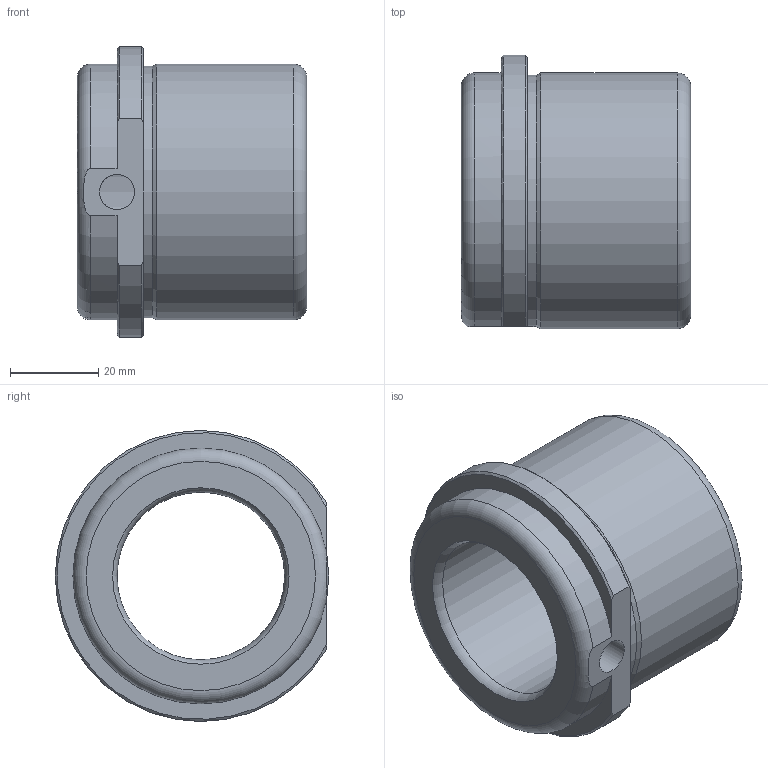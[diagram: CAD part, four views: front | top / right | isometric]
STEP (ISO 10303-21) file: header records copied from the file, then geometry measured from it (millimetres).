
FILE_DESCRIPTION(/* description */ ('Impex Ready, www.impex-ready.pl'),/* implementation_level */ '2;1');
FILE_NAME(/* name */ 'C:\Users\VIKKY\Nextcloud\SM\projekt 10 - części na stronę internetową\Pliki_3D_new\273 Tuleje BEBA\273_BEBA_STEP\BEBA38-5.ipt.step',/* time_stamp */ '2022-01-19T05:45:16+01:00',/* author */ ('SM'),/* organization */ (''),/* preprocessor_version */ 'ST-DEVELOPER v18.1',/* originating_system */ 'Autodesk Inventor 2021',/* authorisation */ '');
FILE_SCHEMA (('AUTOMOTIVE_DESIGN { 1 0 10303 214 3 1 1 }'));
Length unit declared in the file: millimetre
Products named in the file (1): BEBA38-5
Bounding box: 52 x 62 x 66 mm (x, y, z)
Volume: 80850.2 mm3; surface area: 32668.2 mm2
Topology: 2 solids, 2 shells, 21 faces, 58 edges, 36 vertices
Faces by surface type: cylinder 9, plane 5, torus 4, cone 3
Full cylindrical faces by diameter (mm): 8 x2, 38 x1, 40 x2, 57 x1, 58 x1
Entity records: 889 total; most frequent: CARTESIAN_POINT 251, ORIENTED_EDGE 116, DIRECTION 113, EDGE_CURVE 58, AXIS2_PLACEMENT_3D 47, VERTEX_POINT 36, CIRCLE 25, EDGE_LOOP 24
